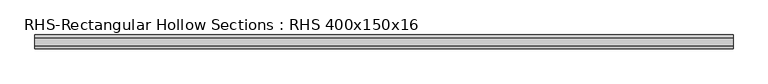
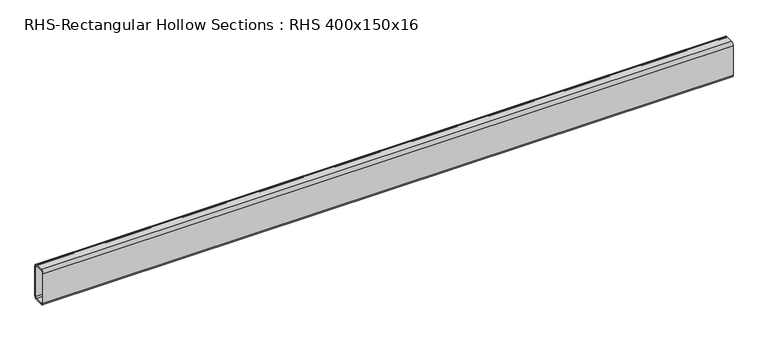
"""IFC4 building model written with IfcOpenShell, lengths in millimetres: beam geometry, RHS-Rectangular Hollow Sections : RHS 400x150x16."""

from ifc_helpers import new_model, si_unit, point, frame, frame_2d, origin, place, context, project, spatial, polyline, circle_curve, trimmed, segment, composite_curve, outline, extrude, source, transform, mapped, element, save


def rhs_rectangular_hollow_sections_rhs_400x150x16_86f8c13a(model_context):
    return source(origin(), model_context, "Body", "SweptSolid", [
        extrude(outline(composite_curve([segment(polyline([(75.0, 168.0), (75.0, -168.0)]), True, "CONTINUOUS"), segment(trimmed(circle_curve(frame_2d((43.0, -168.0)), 32.0), [point((75.0, -168.0))], [point((43.0, -200.0))], False, "CARTESIAN"), True, "CONTINUOUS"), segment(polyline([(43.0, -200.0), (-43.0, -200.0)]), True, "CONTINUOUS"), segment(trimmed(circle_curve(frame_2d((-43.0, -168.0)), 32.0), [point((-43.0, -200.0))], [point((-75.0, -168.0))], False, "CARTESIAN"), True, "CONTINUOUS"), segment(polyline([(-75.0, -168.0), (-75.0, 168.0)]), True, "CONTINUOUS"), segment(trimmed(circle_curve(frame_2d((-43.0, 168.0)), 32.0), [point((-75.0, 168.0))], [point((-43.0, 200.0))], False, "CARTESIAN"), True, "CONTINUOUS"), segment(polyline([(-43.0, 200.0), (43.0, 200.0)]), True, "CONTINUOUS"), segment(trimmed(circle_curve(frame_2d((43.0, 168.0)), 32.0), [point((43.0, 200.0))], [point((75.0, 168.0))], False, "CARTESIAN"), True, "CONTINUOUS")], self_intersect=False), holes=[composite_curve([segment(trimmed(circle_curve(frame_2d((-43.0, 168.0)), 16.0), [point((-43.0, 184.0))], [point((-59.0, 168.0))], True, "CARTESIAN"), True, "CONTINUOUS"), segment(polyline([(-59.0, 168.0), (-59.0, -168.0)]), True, "CONTINUOUS"), segment(trimmed(circle_curve(frame_2d((-43.0, -168.0)), 16.0), [point((-59.0, -168.0))], [point((-43.0, -184.0))], True, "CARTESIAN"), True, "CONTINUOUS"), segment(polyline([(-43.0, -184.0), (43.0, -184.0)]), True, "CONTINUOUS"), segment(trimmed(circle_curve(frame_2d((43.0, -168.0)), 16.0), [point((43.0, -184.0))], [point((59.0, -168.0))], True, "CARTESIAN"), True, "CONTINUOUS"), segment(polyline([(59.0, -168.0), (59.0, 168.0)]), True, "CONTINUOUS"), segment(trimmed(circle_curve(frame_2d((43.0, 168.0)), 16.0), [point((59.0, 168.0))], [point((43.0, 184.0))], True, "CARTESIAN"), True, "CONTINUOUS"), segment(polyline([(43.0, 184.0), (-43.0, 184.0)]), True, "CONTINUOUS")], self_intersect=False)]), frame((-3725.0, 0.0, 0.0), z_axis=(1.0, 0.0, 0.0), x_axis=(0.0, 1.0, 0.0)), (0.0, 0.0, 1.0), 7450.0),
    ])


if __name__ == "__main__":
    model = new_model("IFC4")
    model_context = context("Model", 3, world=origin())
    ifc_project = project(units=[si_unit("LENGTHUNIT", "METRE", prefix="MILLI")], contexts=[model_context])
    site = spatial("IfcSite", under=ifc_project)
    building = spatial("IfcBuilding", under=site)
    placement = place(None, origin())
    rhs_rectangular_hollow_sections_rhs_400x150x16_shape = rhs_rectangular_hollow_sections_rhs_400x150x16_86f8c13a(model_context)
    element("IfcBeam", 1, ObjectType="RHS-Rectangular Hollow Sections : RHS 400x150x16", at=placement, inside=building, context=model_context, shape_type="MappedRepresentation", body=[
        mapped(rhs_rectangular_hollow_sections_rhs_400x150x16_shape, transform((0.0, 0.0, 0.0), x_axis=(1.0, 0.0, 0.0), y_axis=(0.0, 1.0, 0.0), z_axis=(0.0, 0.0, 1.0))),
    ])
    save(model, "model.ifc")
